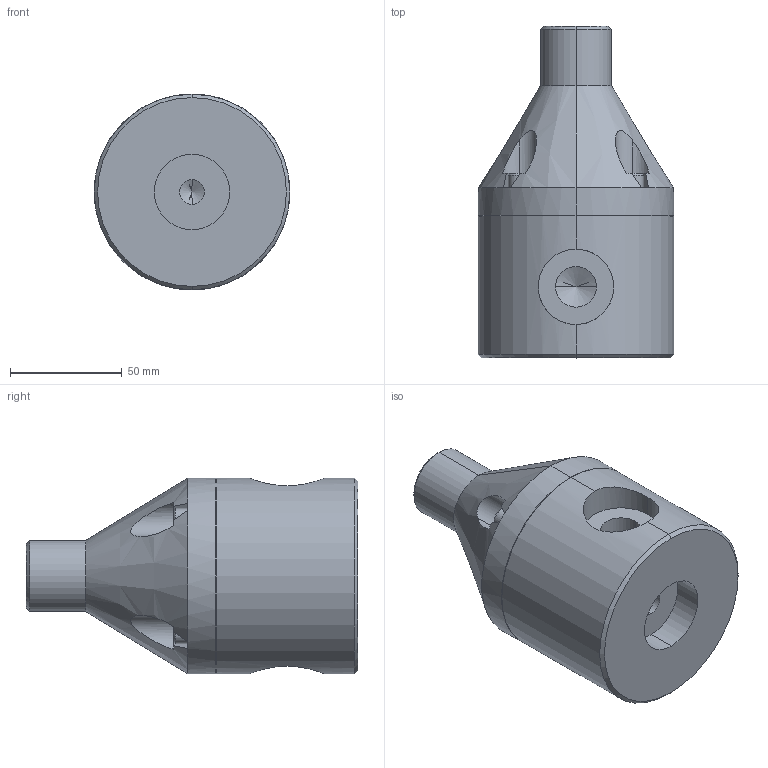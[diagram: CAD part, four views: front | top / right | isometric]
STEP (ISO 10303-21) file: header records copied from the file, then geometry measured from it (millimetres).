
FILE_DESCRIPTION (( 'STEP AP203' ), '1' );
FILE_NAME ('GPR1000-SOC.STEP', '2015-04-27T10:14:14', ( 'Dan Bernard' ), ( '' ), 'SwSTEP 2.0', 'SolidWorks 2008', '' );
FILE_SCHEMA (( 'CONFIG_CONTROL_DESIGN' ));
Length unit declared in the file: inch
Products named in the file (1): GPR1000-SOC
Bounding box: 87.63 x 148.59 x 87.63 mm (x, y, z)
Volume: 568834.8 mm3; surface area: 54718.7 mm2
Topology: 1 solids, 1 shells, 134 faces, 322 edges, 201 vertices
Faces by surface type: plane 72, cylinder 36, cone 26
Entity records: 4321 total; most frequent: CARTESIAN_POINT 1110, DIRECTION 664, ORIENTED_EDGE 632, EDGE_CURVE 316, AXIS2_PLACEMENT_3D 235, VERTEX_POINT 201, VECTOR 194, LINE 194
